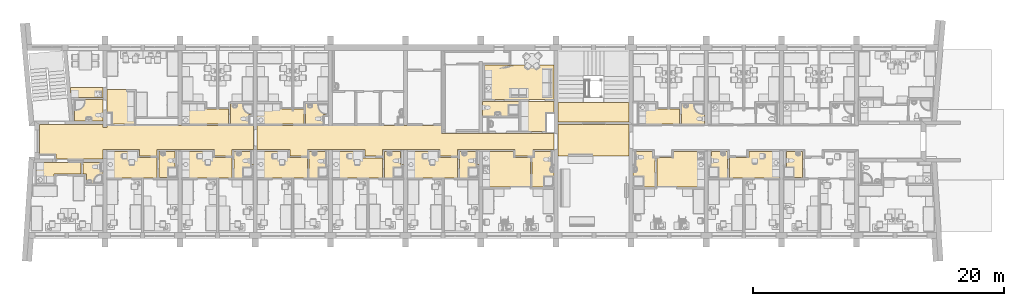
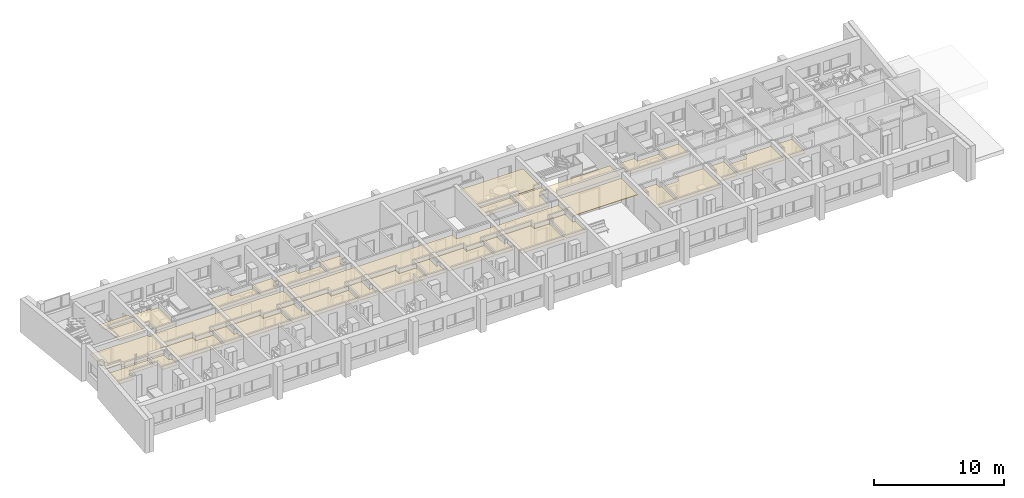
# One storey, part 42 of 172: 35 coverings.
"""IFC2X3 building model written with IfcOpenShell, lengths in millimetres."""

from ifc_helpers import new_model, entity, si_unit, converted_unit, money_unit, direction, frame, origin_with_axes, place, context, subcontext, project, spatial, faceted_brep, material, type_object, element, save


model = new_model("IFC2X3")

# Units and contexts
model_context = context("Model", 3, precision=1e-05, world=origin_with_axes(), true_north=direction((0.0, 1.0)))
body_context = subcontext(model_context, "Body", "Model", "MODEL_VIEW")
ifc_project = project(units=[si_unit("LENGTHUNIT", "METRE", prefix="MILLI"), si_unit("AREAUNIT", "SQUARE_METRE"), si_unit("VOLUMEUNIT", "CUBIC_METRE"), converted_unit("PLANEANGLEUNIT", "DEGREE", entity("IfcPlaneAngleMeasure", 0.0174532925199), si_unit("PLANEANGLEUNIT", "RADIAN"), dimensions=[0, 0, 0, 0, 0, 0, 0]), si_unit("SOLIDANGLEUNIT", "STERADIAN"), money_unit("USD"), converted_unit("TIMEUNIT", "Year", entity("IfcTimeMeasure", 31556926.0), si_unit("TIMEUNIT", "SECOND"), dimensions=[0, 0, 0, 0, 0, 0, 0]), si_unit("MASSUNIT", "GRAM"), si_unit("THERMODYNAMICTEMPERATUREUNIT", "DEGREE_CELSIUS"), si_unit("LUMINOUSINTENSITYUNIT", "LUMEN")], contexts=[model_context])

# Site, building, storey
site_placement = place(None, origin_with_axes())
site = spatial("IfcSite", under=ifc_project, at=site_placement, Name="Site", CompositionType="ELEMENT")
building_placement = place(site_placement, origin_with_axes())
building = spatial("IfcBuilding", under=site, at=building_placement, Name="Building", CompositionType="ELEMENT")
storey_placement = place(building_placement, frame((0.0, 0.0, 3200.0), z_axis=(0.0, 0.0, 1.0), x_axis=(1.0, 0.0, 0.0)))
storey = spatial("IfcBuildingStorey", under=building, at=storey_placement, Name="3KORRUS", CompositionType="ELEMENT", Elevation=3200.0)

# Coverings
ifc_material_1 = material(Name="Alumiiniumprofiil")
covering_type_1 = type_object("IfcCoveringType", Name="Alumiiniumprofiil 50", PredefinedType="NOTDEFINED")
covering_1_placement = place(storey_placement, frame((-2115.29670331, -10987.6041088, 2350.0), z_axis=(0.0, 0.0, 1.0), x_axis=(1.0, 0.0, 0.0)))
element("IfcCovering", 1, at=covering_1_placement, inside=storey, type_object=covering_type_1, material=ifc_material_1, Name="RL2", ObjectType="alumiiniumprofiil", PredefinedType="CEILING", context=body_context, shape_type="Brep", body=[
    faceted_brep([(0.0, 0.0, -50.0), (1825.0, 1.0, -50.0), (1825.0, 1.0, 0.0), (0.0, 0.0, 0.0), (0.0, 1620.226, -50.0), (1831.288, 1619.226, -50.0), (1831.288, 699.226, -50.0), (1831.288, 699.226, 0.0), (1831.288, 1619.226, 0.0), (0.0, 1620.226, 0.0)], [[[0, 1, 2, 3]], [[0, 4, 5, 6, 1]], [[1, 6, 7, 2]], [[3, 2, 7, 8, 9]], [[4, 0, 3, 9]], [[5, 4, 9, 8]], [[6, 5, 8, 7]]]),
])
covering_2_placement = place(storey_placement, frame((7559.89667774, -15289.2398994, 2350.0), z_axis=(0.0, 0.0, 1.0), x_axis=(1.0, 0.0, 0.0)))
element("IfcCovering", 2, at=covering_2_placement, inside=storey, type_object=covering_type_1, material=ifc_material_1, Name="RL2", ObjectType="alumiiniumprofiil", PredefinedType="CEILING", context=body_context, shape_type="Brep", body=[
    faceted_brep([(0.0, 0.0, -50.0), (0.0, 2099.869, -50.0), (0.0, 2099.869, 0.0), (0.0, 0.0, 0.0), (-1550.193, 8.768, -50.0), (-1550.193, 908.768, -50.0), (-1299.905, 908.768, -50.0), (-1299.905, 2099.869, -50.0), (-1299.905, 2099.869, 0.0), (-1299.905, 908.768, 0.0), (-1550.193, 908.768, 0.0), (-1550.193, 8.768, 0.0)], [[[0, 1, 2, 3]], [[0, 4, 5, 6, 7, 1]], [[1, 7, 8, 2]], [[3, 2, 8, 9, 10, 11]], [[4, 0, 3, 11]], [[5, 4, 11, 10]], [[6, 5, 10, 9]], [[7, 6, 9, 8]]]),
])
covering_3_placement = place(storey_placement, frame((-37834.201689, -15289.2398994, 2350.0), z_axis=(0.0, 0.0, 1.0), x_axis=(1.0, 0.0, 0.0)))
element("IfcCovering", 3, at=covering_3_placement, inside=storey, type_object=covering_type_1, material=ifc_material_1, Name="RL2", ObjectType="alumiiniumprofiil", PredefinedType="CEILING", context=body_context, shape_type="Brep", body=[
    faceted_brep([(0.0, 0.0, -50.0), (1543.905, 0.0, -50.0), (1543.905, 0.0, 0.0), (0.0, 0.0, 0.0), (0.0, 2099.869, -50.0), (1295.215, 2099.869, -50.0), (1300.193, 1058.768, -50.0), (1543.905, 1058.768, -50.0), (1543.905, 1058.768, 0.0), (1300.193, 1058.768, 0.0), (1295.215, 2099.869, 0.0), (0.0, 2099.869, 0.0)], [[[0, 1, 2, 3]], [[0, 4, 5, 6, 7, 1]], [[1, 7, 8, 2]], [[3, 2, 8, 9, 10, 11]], [[4, 0, 3, 11]], [[5, 4, 11, 10]], [[6, 5, 10, 9]], [[7, 6, 9, 8]]]),
])
covering_4_placement = place(storey_placement, frame((-48290.2967033, -10739.6041088, 2350.0), z_axis=(0.0, 0.0, 1.0), x_axis=(1.0, 0.0, 0.0)))
element("IfcCovering", 4, at=covering_4_placement, inside=storey, type_object=covering_type_1, material=ifc_material_1, Name="RL2", ObjectType="alumiiniumprofiil", PredefinedType="CEILING", context=body_context, shape_type="Brep", body=[
    faceted_brep([(0.0, 0.0, -50.0), (0.0, 1694.331, -50.0), (0.0, 1694.331, 0.0), (0.0, 0.0, 0.0), (-2288.288, 0.0, -50.0), (-2288.288, 1694.331, -50.0), (-2288.288, 1694.331, 0.0), (-2288.288, 0.0, 0.0)], [[[0, 1, 2, 3]], [[0, 4, 5, 1]], [[1, 5, 6, 2]], [[3, 2, 6, 7]], [[4, 0, 3, 7]], [[5, 4, 7, 6]]]),
])
covering_5_placement = place(storey_placement, frame((-43834.201689, -15289.2398994, 2350.0), z_axis=(0.0, 0.0, 1.0), x_axis=(1.0, 0.0, 0.0)))
element("IfcCovering", 5, at=covering_5_placement, inside=storey, type_object=covering_type_1, material=ifc_material_1, Name="RL2", ObjectType="alumiiniumprofiil", PredefinedType="CEILING", context=body_context, shape_type="Brep", body=[
    faceted_brep([(0.0, 0.0, -50.0), (1543.905, 8.768, -50.0), (1543.905, 8.768, 0.0), (0.0, 0.0, 0.0), (0.0, 2099.869, -50.0), (1295.215, 2099.869, -50.0), (1300.193, 948.488, -50.0), (1300.193, 908.768, -50.0), (1543.905, 908.768, -50.0), (1543.905, 908.768, 0.0), (1300.193, 908.768, 0.0), (1300.193, 948.488, 0.0), (1295.215, 2099.869, 0.0), (0.0, 2099.869, 0.0)], [[[0, 1, 2, 3]], [[0, 4, 5, 6, 7, 8, 1]], [[1, 8, 9, 2]], [[3, 2, 9, 10, 11, 12, 13]], [[4, 0, 3, 13]], [[5, 4, 13, 12]], [[6, 5, 12, 11]], [[7, 6, 11, 10]], [[8, 7, 10, 9]]]),
])
covering_6_placement = place(storey_placement, frame((-31834.201689, -15289.2398994, 2350.0), z_axis=(0.0, 0.0, 1.0), x_axis=(1.0, 0.0, 0.0)))
element("IfcCovering", 6, at=covering_6_placement, inside=storey, type_object=covering_type_1, material=ifc_material_1, Name="RL2", ObjectType="alumiiniumprofiil", PredefinedType="CEILING", context=body_context, shape_type="Brep", body=[
    faceted_brep([(0.0, 0.0, -50.0), (1543.905, 0.0, -50.0), (1543.905, 0.0, 0.0), (0.0, 0.0, 0.0), (0.0, 2105.058, -50.0), (1295.215, 2105.058, -50.0), (1300.935, 908.801, -50.0), (1543.905, 908.768, -50.0), (1543.905, 908.768, 0.0), (1300.935, 908.801, 0.0), (1295.215, 2105.058, 0.0), (0.0, 2105.058, 0.0)], [[[0, 1, 2, 3]], [[0, 4, 5, 6, 7, 1]], [[1, 7, 8, 2]], [[3, 2, 8, 9, 10, 11]], [[4, 0, 3, 11]], [[5, 4, 11, 10]], [[6, 5, 10, 9]], [[7, 6, 9, 8]]]),
])
covering_7_placement = place(storey_placement, frame((-25835.2232029, -15289.2398994, 2350.0), z_axis=(0.0, 0.0, 1.0), x_axis=(1.0, 0.0, 0.0)))
element("IfcCovering", 7, at=covering_7_placement, inside=storey, type_object=covering_type_1, material=ifc_material_1, Name="RL2", ObjectType="alumiiniumprofiil", PredefinedType="CEILING", context=body_context, shape_type="Brep", body=[
    faceted_brep([(0.0, 0.0, -50.0), (1543.905, 0.0, -50.0), (1543.905, 0.0, 0.0), (0.0, 0.0, 0.0), (0.0, 2099.869, -50.0), (1295.215, 2099.869, -50.0), (1300.193, 1058.768, -50.0), (1543.905, 1058.768, -50.0), (1543.905, 1058.768, 0.0), (1300.193, 1058.768, 0.0), (1295.215, 2099.869, 0.0), (0.0, 2099.869, 0.0)], [[[0, 1, 2, 3]], [[0, 4, 5, 6, 7, 1]], [[1, 7, 8, 2]], [[3, 2, 8, 9, 10, 11]], [[4, 0, 3, 11]], [[5, 4, 11, 10]], [[6, 5, 10, 9]], [[7, 6, 9, 8]]]),
])
covering_8_placement = place(storey_placement, frame((-17990.2967033, -10342.2398994, 2350.0), z_axis=(0.0, 0.0, 1.0), x_axis=(1.0, 0.0, 0.0)))
element("IfcCovering", 8, at=covering_8_placement, inside=storey, type_object=covering_type_1, material=ifc_material_1, Name="RL2", ObjectType="alumiiniumprofiil", PredefinedType="CEILING", context=body_context, shape_type="Brep", body=[
    faceted_brep([(0.0, 0.0, -50.0), (2899.854, 0.0, -50.0), (2899.854, 0.0, 0.0), (0.0, 0.0, 0.0), (0.0, 1152.667, -50.0), (2899.854, 1152.667, -50.0), (2899.854, 1152.667, 0.0), (0.0, 1152.667, 0.0)], [[[0, 1, 2, 3]], [[0, 4, 5, 1]], [[1, 5, 6, 2]], [[3, 2, 6, 7]], [[4, 0, 3, 7]], [[5, 4, 7, 6]]]),
])
covering_9_placement = place(storey_placement, frame((-14037.2404586, -13689.321739, 2350.0), z_axis=(0.0, 0.0, 1.0), x_axis=(1.0, 0.0, 0.0)))
element("IfcCovering", 9, at=covering_9_placement, inside=storey, type_object=covering_type_1, material=ifc_material_1, Name="RL2", ObjectType="alumiiniumprofiil", PredefinedType="CEILING", context=body_context, shape_type="Brep", body=[
    faceted_brep([(0.0, 0.0, -50.0), (0.0, -2340.414, -50.0), (0.0, -2340.414, 0.0), (0.0, 0.0, 0.0), (196.75, 0.0, -50.0), (196.75, 500.082, -50.0), (1491.965, 500.082, -50.0), (1496.944, -691.019, -50.0), (1746.944, -691.019, -50.0), (1746.944, -2340.283, -50.0), (1746.944, -2340.283, 0.0), (1746.944, -691.019, 0.0), (1496.944, -691.019, 0.0), (1491.965, 500.082, 0.0), (196.75, 500.082, 0.0), (196.75, 0.0, 0.0)], [[[0, 1, 2, 3]], [[0, 4, 5, 6, 7, 8, 9, 1]], [[1, 9, 10, 2]], [[3, 2, 10, 11, 12, 13, 14, 15]], [[4, 0, 3, 15]], [[5, 4, 15, 14]], [[6, 5, 14, 13]], [[7, 6, 13, 12]], [[8, 7, 12, 11]], [[9, 8, 11, 10]]]),
])
covering_10_placement = place(storey_placement, frame((-19838.0195593, -15289.2398994, 2350.0), z_axis=(0.0, 0.0, 1.0), x_axis=(1.0, 0.0, 0.0)))
element("IfcCovering", 10, at=covering_10_placement, inside=storey, type_object=covering_type_1, material=ifc_material_1, Name="RL2", ObjectType="alumiiniumprofiil", PredefinedType="CEILING", context=body_context, shape_type="Brep", body=[
    faceted_brep([(0.0, 0.0, -50.0), (1547.723, 0.0, -50.0), (1547.723, 0.0, 0.0), (0.0, 0.0, 0.0), (3.818, 2099.875, -50.0), (1299.033, 2099.875, -50.0), (1304.011, 1058.774, -50.0), (1547.723, 1058.774, -50.0), (1547.723, 1058.774, 0.0), (1304.011, 1058.774, 0.0), (1299.033, 2099.875, 0.0), (3.818, 2099.875, 0.0)], [[[0, 1, 2, 3]], [[0, 4, 5, 6, 7, 1]], [[1, 7, 8, 2]], [[3, 2, 8, 9, 10, 11]], [[4, 0, 3, 11]], [[5, 4, 11, 10]], [[6, 5, 10, 9]], [[7, 6, 9, 8]]]),
])
covering_11_placement = place(storey_placement, frame((-4243.35294798, -13686.4524121, 2350.0), z_axis=(0.0, 0.0, 1.0), x_axis=(1.0, 0.0, 0.0)))
element("IfcCovering", 11, at=covering_11_placement, inside=storey, type_object=covering_type_1, material=ifc_material_1, Name="RL2", ObjectType="alumiiniumprofiil", PredefinedType="CEILING", context=body_context, shape_type="Brep", body=[
    faceted_brep([(0.0, 0.0, -50.0), (-196.75, 0.0, -50.0), (-196.75, 0.0, 0.0), (0.0, 0.0, 0.0), (0.0, -2340.283, -50.0), (-1746.944, -2340.283, -50.0), (-1746.944, -624.351, -50.0), (-1496.944, -624.351, -50.0), (-1491.965, 500.082, -50.0), (-196.75, 500.082, -50.0), (-196.75, 500.082, 0.0), (-1491.965, 500.082, 0.0), (-1496.944, -624.351, 0.0), (-1746.944, -624.351, 0.0), (-1746.944, -2340.283, 0.0), (0.0, -2340.283, 0.0)], [[[0, 1, 2, 3]], [[0, 4, 5, 6, 7, 8, 9, 1]], [[1, 9, 10, 2]], [[3, 2, 10, 11, 12, 13, 14, 15]], [[4, 0, 3, 15]], [[5, 4, 15, 14]], [[6, 5, 14, 13]], [[7, 6, 13, 12]], [[8, 7, 12, 11]], [[9, 8, 11, 10]]]),
])
covering_12_placement = place(storey_placement, frame((1553.60828238, -15289.2398994, 2350.0), z_axis=(0.0, 0.0, 1.0), x_axis=(1.0, 0.0, 0.0)))
element("IfcCovering", 12, at=covering_12_placement, inside=storey, type_object=covering_type_1, material=ifc_material_1, Name="RL2", ObjectType="alumiiniumprofiil", PredefinedType="CEILING", context=body_context, shape_type="Brep", body=[
    faceted_brep([(0.0, 0.0, -50.0), (0.0, 2099.869, -50.0), (0.0, 2099.869, 0.0), (0.0, 0.0, 0.0), (-1543.905, 0.0, -50.0), (-1543.905, 908.768, -50.0), (-1300.193, 908.768, -50.0), (-1295.215, 2099.869, -50.0), (-1295.215, 2099.869, 0.0), (-1300.193, 908.768, 0.0), (-1543.905, 908.768, 0.0), (-1543.905, 0.0, 0.0)], [[[0, 1, 2, 3]], [[0, 4, 5, 6, 7, 1]], [[1, 7, 8, 2]], [[3, 2, 8, 9, 10, 11]], [[4, 0, 3, 11]], [[5, 4, 11, 10]], [[6, 5, 10, 9]], [[7, 6, 9, 8]]]),
])
covering_13_placement = place(storey_placement, frame((-32128.1115082, -10978.8579659, 2350.0), z_axis=(0.0, 0.0, 1.0), x_axis=(1.0, 0.0, 0.0)))
element("IfcCovering", 13, at=covering_13_placement, inside=storey, type_object=covering_type_1, material=ifc_material_1, Name="RL2", ObjectType="alumiiniumprofiil", PredefinedType="CEILING", context=body_context, shape_type="Brep", body=[
    faceted_brep([(0.0, 0.0, -50.0), (1387.815, -7.746, -50.0), (1387.815, -7.746, 0.0), (0.0, 0.0, 0.0), (12.815, 1611.479, -50.0), (1831.288, 1611.479, -50.0), (1837.815, 698.754, -50.0), (1387.815, 698.754, -50.0), (1387.815, 698.754, 0.0), (1837.815, 698.754, 0.0), (1831.288, 1611.479, 0.0), (12.815, 1611.479, 0.0)], [[[0, 1, 2, 3]], [[0, 4, 5, 6, 7, 1]], [[1, 7, 8, 2]], [[3, 2, 8, 9, 10, 11]], [[4, 0, 3, 11]], [[5, 4, 11, 10]], [[6, 5, 10, 9]], [[7, 6, 9, 8]]]),
])
covering_14_placement = place(storey_placement, frame((-38121.5850987, -10986.6041088, 2350.0), z_axis=(0.0, 0.0, 1.0), x_axis=(1.0, 0.0, 0.0)))
element("IfcCovering", 14, at=covering_14_placement, inside=storey, type_object=covering_type_1, material=ifc_material_1, Name="RL2", ObjectType="alumiiniumprofiil", PredefinedType="CEILING", context=body_context, shape_type="Brep", body=[
    faceted_brep([(0.0, 0.0, -50.0), (1431.577, 0.0, -50.0), (1431.577, 0.0, 0.0), (0.0, 0.0, 0.0), (0.0, 1619.226, -50.0), (1831.288, 1619.226, -50.0), (1831.288, 699.226, -50.0), (1431.577, 699.226, -50.0), (1431.577, 699.226, 0.0), (1831.288, 699.226, 0.0), (1831.288, 1619.226, 0.0), (0.0, 1619.226, 0.0)], [[[0, 1, 2, 3]], [[0, 4, 5, 6, 7, 1]], [[1, 7, 8, 2]], [[3, 2, 8, 9, 10, 11]], [[4, 0, 3, 11]], [[5, 4, 11, 10]], [[6, 5, 10, 9]], [[7, 6, 9, 8]]]),
])
covering_15_placement = place(storey_placement, frame((-49890.4499069, -14989.5106464, 2350.0), z_axis=(0.0, 0.0, 1.0), x_axis=(1.0, 0.0, 0.0)))
element("IfcCovering", 15, at=covering_15_placement, inside=storey, type_object=covering_type_1, material=ifc_material_1, Name="RL2", ObjectType="alumiiniumprofiil", PredefinedType="CEILING", context=body_context, shape_type="Brep", body=[
    faceted_brep([(0.0, 0.0, -50.0), (266.685, 0.0, -50.0), (266.685, 0.0, 0.0), (0.0, 0.0, 0.0), (0.0, 902.173, -50.0), (1340.153, 902.173, -50.0), (1340.153, 150.484, -50.0), (1600.153, 150.484, -50.0), (1600.153, -749.516, -50.0), (267.984, -749.516, -50.0), (267.984, -749.516, 0.0), (1600.153, -749.516, 0.0), (1600.153, 150.484, 0.0), (1340.153, 150.484, 0.0), (1340.153, 902.173, 0.0), (0.0, 902.173, 0.0)], [[[0, 1, 2, 3]], [[0, 4, 5, 6, 7, 8, 9, 1]], [[1, 9, 10, 2]], [[3, 2, 10, 11, 12, 13, 14, 15]], [[4, 0, 3, 15]], [[5, 4, 15, 14]], [[6, 5, 14, 13]], [[7, 6, 13, 12]], [[8, 7, 12, 11]], [[9, 8, 11, 10]]]),
])
ifc_material_2 = material(Name="UmbKipsplaat")
covering_type_2 = type_object("IfcCoveringType", Name="UmbKipsplaat 50", PredefinedType="NOTDEFINED")
covering_16_placement = place(storey_placement, frame((-35984.008308, -9367.37850445, 2350.0), z_axis=(0.0, 0.0, 1.0), x_axis=(1.0, 0.0, 0.0)))
element("IfcCovering", 16, at=covering_16_placement, inside=storey, type_object=covering_type_2, material=ifc_material_2, Name="RL1", ObjectType="kipsplaat", PredefinedType="CEILING", context=body_context, shape_type="Brep", body=[
    faceted_brep([(0.0, 0.0, -50.0), (0.0, -1619.226, -50.0), (0.0, -1619.226, 0.0), (0.0, 0.0, 0.0), (1818.265, 0.0, -50.0), (1818.265, -448.516, -50.0), (3718.712, -448.516, -50.0), (3718.712, -1619.226, -50.0), (3718.712, -1619.226, 0.0), (3718.712, -448.516, 0.0), (1818.265, -448.516, 0.0), (1818.265, 0.0, 0.0)], [[[0, 1, 2, 3]], [[0, 4, 5, 6, 7, 1]], [[1, 7, 8, 2]], [[3, 2, 8, 9, 10, 11]], [[4, 0, 3, 11]], [[5, 4, 11, 10]], [[6, 5, 10, 9]], [[7, 6, 9, 8]]]),
])
covering_17_placement = place(storey_placement, frame((-5540.30226501, -10986.6041088, 2350.0), z_axis=(0.0, 0.0, 1.0), x_axis=(1.0, 0.0, 0.0)))
element("IfcCovering", 17, at=covering_17_placement, inside=storey, type_object=covering_type_2, material=ifc_material_2, Name="RL1", ObjectType="kipsplaat", PredefinedType="CEILING", context=body_context, shape_type="Brep", body=[
    faceted_brep([(0.0, 0.0, -50.0), (3275.006, -1.0, -50.0), (3275.006, -1.0, 0.0), (0.0, 0.0, 0.0), (0.0, 1619.226, -50.0), (1350.0, 1618.226, -50.0), (1374.559, 1178.71, -50.0), (3275.006, 1178.71, -50.0), (3275.006, 1178.71, 0.0), (1374.559, 1178.71, 0.0), (1350.0, 1618.226, 0.0), (0.0, 1619.226, 0.0)], [[[0, 1, 2, 3]], [[0, 4, 5, 6, 7, 1]], [[1, 7, 8, 2]], [[3, 2, 8, 9, 10, 11]], [[4, 0, 3, 11]], [[5, 4, 11, 10]], [[6, 5, 10, 9]], [[7, 6, 9, 8]]]),
])
covering_18_placement = place(storey_placement, frame((-33533.8623886, -13189.2398719, 2350.0), z_axis=(0.0, 0.0, 1.0), x_axis=(1.0, 0.0, 0.0)))
element("IfcCovering", 18, at=covering_18_placement, inside=storey, type_object=covering_type_2, material=ifc_material_2, Name="RL1", ObjectType="kipsplaat", PredefinedType="CEILING", context=body_context, shape_type="Brep", body=[
    faceted_brep([(0.0, 0.0, -50.0), (-2450.146, -0.131, -50.0), (-2450.146, -0.131, 0.0), (0.0, 0.0, 0.0), (0.0, -500.213, -50.0), (1549.661, -500.213, -50.0), (1549.661, -2100.0, -50.0), (-2450.146, -2100.0, -50.0), (-2450.146, -2100.0, 0.0), (1549.661, -2100.0, 0.0), (1549.661, -500.213, 0.0), (0.0, -500.213, 0.0)], [[[0, 1, 2, 3]], [[0, 4, 5, 6, 7, 1]], [[1, 7, 8, 2]], [[3, 2, 8, 9, 10, 11]], [[4, 0, 3, 11]], [[5, 4, 11, 10]], [[6, 5, 10, 9]], [[7, 6, 9, 8]]]),
])
covering_19_placement = place(storey_placement, frame((-11990.2967033, -11039.6041088, 2250.0), z_axis=(0.0, 0.0, 1.0), x_axis=(1.0, 0.0, 0.0)))
element("IfcCovering", 19, at=covering_19_placement, inside=storey, type_object=covering_type_2, material=ifc_material_2, Name="RL1", ObjectType="kipsplaat", PredefinedType="CEILING", context=body_context, shape_type="Brep", body=[
    faceted_brep([(0.0, 0.0, -50.0), (0.0, -2516.722, -50.0), (0.0, -2516.722, 0.0), (0.0, 0.0, 0.0), (5700.0, -4.537, -50.0), (5700.0, -2516.722, -50.0), (5700.0, -2516.722, 0.0), (5700.0, -4.537, 0.0)], [[[0, 1, 2, 3]], [[0, 4, 5, 1]], [[1, 5, 6, 2]], [[3, 2, 6, 7]], [[4, 0, 3, 7]], [[5, 4, 7, 6]]]),
])
covering_20_placement = place(storey_placement, frame((-45533.8623886, -13189.2398697, 2350.0), z_axis=(0.0, 0.0, 1.0), x_axis=(1.0, 0.0, 0.0)))
element("IfcCovering", 20, at=covering_20_placement, inside=storey, type_object=covering_type_2, material=ifc_material_2, Name="RL1", ObjectType="kipsplaat", PredefinedType="CEILING", context=body_context, shape_type="Brep", body=[
    faceted_brep([(0.0, 0.0, -50.0), (-2450.146, -0.131, -50.0), (-2450.146, -0.131, 0.0), (0.0, 0.0, 0.0), (0.0, -500.213, -50.0), (1549.661, -500.213, -50.0), (1549.661, -2100.0, -50.0), (-2450.146, -2100.0, -50.0), (-2450.146, -2100.0, 0.0), (1549.661, -2100.0, 0.0), (1549.661, -500.213, 0.0), (0.0, -500.213, 0.0)], [[[0, 1, 2, 3]], [[0, 4, 5, 6, 7, 1]], [[1, 7, 8, 2]], [[3, 2, 8, 9, 10, 11]], [[4, 0, 3, 11]], [[5, 4, 11, 10]], [[6, 5, 10, 9]], [[7, 6, 9, 8]]]),
])
covering_21_placement = place(storey_placement, frame((-45784.1327748, -10986.6041088, 2350.0), z_axis=(0.0, 0.0, 1.0), x_axis=(1.0, 0.0, 0.0)))
element("IfcCovering", 21, at=covering_21_placement, inside=storey, type_object=covering_type_2, material=ifc_material_2, Name="RL1", ObjectType="kipsplaat", PredefinedType="CEILING", context=body_context, shape_type="Brep", body=[
    faceted_brep([(0.0, 0.0, -50.0), (0.0, 2576.733, -50.0), (0.0, 2576.733, 0.0), (0.0, 0.0, 0.0), (-1743.72, 0.0, -50.0), (-1747.444, 957.307, -50.0), (-2206.164, 957.307, -50.0), (-2206.164, 2726.733, -50.0), (-649.85, 2726.733, -50.0), (-649.85, 2576.733, -50.0), (-649.85, 2576.733, 0.0), (-649.85, 2726.733, 0.0), (-2206.164, 2726.733, 0.0), (-2206.164, 957.307, 0.0), (-1747.444, 957.307, 0.0), (-1743.72, 0.0, 0.0)], [[[0, 1, 2, 3]], [[0, 4, 5, 6, 7, 8, 9, 1]], [[1, 9, 10, 2]], [[3, 2, 10, 11, 12, 13, 14, 15]], [[4, 0, 3, 15]], [[5, 4, 15, 14]], [[6, 5, 14, 13]], [[7, 6, 13, 12]], [[8, 7, 12, 11]], [[9, 8, 11, 10]]]),
])
covering_22_placement = place(storey_placement, frame((-39533.8623886, -13189.2398719, 2350.0), z_axis=(0.0, 0.0, 1.0), x_axis=(1.0, 0.0, 0.0)))
element("IfcCovering", 22, at=covering_22_placement, inside=storey, type_object=covering_type_2, material=ifc_material_2, Name="RL1", ObjectType="kipsplaat", PredefinedType="CEILING", context=body_context, shape_type="Brep", body=[
    faceted_brep([(0.0, 0.0, -50.0), (-2450.146, -0.131, -50.0), (-2450.146, -0.131, 0.0), (0.0, 0.0, 0.0), (0.0, -500.213, -50.0), (1549.661, -500.213, -50.0), (1549.661, -2100.0, -50.0), (-2450.146, -2100.0, -50.0), (-2450.146, -2100.0, 0.0), (1549.661, -2100.0, 0.0), (1549.661, -500.213, 0.0), (0.0, -500.213, 0.0)], [[[0, 1, 2, 3]], [[0, 4, 5, 6, 7, 1]], [[1, 7, 8, 2]], [[3, 2, 8, 9, 10, 11]], [[4, 0, 3, 11]], [[5, 4, 11, 10]], [[6, 5, 10, 9]], [[7, 6, 9, 8]]]),
])
covering_23_placement = place(storey_placement, frame((-290.296703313, -16029.7357921, 2350.0), z_axis=(0.0, 0.0, 1.0), x_axis=(1.0, 0.0, 0.0)))
element("IfcCovering", 23, at=covering_23_placement, inside=storey, type_object=covering_type_2, material=ifc_material_2, Name="RL1", ObjectType="kipsplaat", PredefinedType="CEILING", context=body_context, shape_type="Brep", body=[
    faceted_brep([(0.0, 0.0, -50.0), (0.0, 2840.496, -50.0), (0.0, 2840.496, 0.0), (0.0, 0.0, 0.0), (-3803.056, 0.0, -50.0), (-3803.056, 2340.283, -50.0), (-2450.146, 2340.283, -50.0), (-2450.146, 2840.496, -50.0), (-2450.146, 2840.496, 0.0), (-2450.146, 2340.283, 0.0), (-3803.056, 2340.283, 0.0), (-3803.056, 0.0, 0.0)], [[[0, 1, 2, 3]], [[0, 4, 5, 6, 7, 1]], [[1, 7, 8, 2]], [[3, 2, 8, 9, 10, 11]], [[4, 0, 3, 11]], [[5, 4, 11, 10]], [[6, 5, 10, 9]], [[7, 6, 9, 8]]]),
])
covering_24_placement = place(storey_placement, frame((-40172.0319423, -9366.37847881, 2350.0), z_axis=(0.0, 0.0, 1.0), x_axis=(1.0, 0.0, 0.0)))
element("IfcCovering", 24, at=covering_24_placement, inside=storey, type_object=covering_type_2, material=ifc_material_2, Name="RL1", ObjectType="kipsplaat", PredefinedType="CEILING", context=body_context, shape_type="Brep", body=[
    faceted_brep([(0.0, 0.0, -50.0), (-1818.265, 0.0, -50.0), (-1818.265, 0.0, 0.0), (0.0, 0.0, 0.0), (9.057, -440.329, -50.0), (1912.779, -440.516, -50.0), (1912.779, -1620.775, -50.0), (-1805.933, -1620.226, -50.0), (-1805.933, -1620.226, 0.0), (1912.779, -1620.775, 0.0), (1912.779, -440.516, 0.0), (9.057, -440.329, 0.0)], [[[0, 1, 2, 3]], [[0, 4, 5, 6, 7, 1]], [[1, 7, 8, 2]], [[3, 2, 8, 9, 10, 11]], [[4, 0, 3, 11]], [[5, 4, 11, 10]], [[6, 5, 10, 9]], [[7, 6, 9, 8]]]),
])
covering_25_placement = place(storey_placement, frame((-53608.4921105, -14087.3375681, 2350.0), z_axis=(0.0, 0.0, 1.0), x_axis=(1.0, 0.0, 0.0)))
element("IfcCovering", 25, at=covering_25_placement, inside=storey, type_object=covering_type_2, material=ifc_material_2, Name="RL1", ObjectType="kipsplaat", PredefinedType="CEILING", context=body_context, shape_type="Brep", body=[
    faceted_brep([(0.0, 0.0, -50.0), (0.0, -1650.689, -50.0), (0.0, -1650.689, 0.0), (0.0, 0.0, 0.0), (3568.042, 0.0, -50.0), (3560.094, -902.173, -50.0), (1405.086, -902.173, -50.0), (1405.086, -1650.689, -50.0), (1405.086, -1650.689, 0.0), (1405.086, -902.173, 0.0), (3560.094, -902.173, 0.0), (3568.042, 0.0, 0.0)], [[[0, 1, 2, 3]], [[0, 4, 5, 6, 7, 1]], [[1, 7, 8, 2]], [[3, 2, 8, 9, 10, 11]], [[4, 0, 3, 11]], [[5, 4, 11, 10]], [[6, 5, 10, 9]], [[7, 6, 9, 8]]]),
])
covering_26_placement = place(storey_placement, frame((-17840.2967033, -9039.57320461, 2350.0), z_axis=(0.0, 0.0, 1.0), x_axis=(1.0, 0.0, 0.0)))
element("IfcCovering", 26, at=covering_26_placement, inside=storey, type_object=covering_type_2, material=ifc_material_2, Name="RL1", ObjectType="kipsplaat", PredefinedType="CEILING", context=body_context, shape_type="Brep", body=[
    faceted_brep([(0.0, 0.0, -50.0), (5550.0, 0.0, -50.0), (5550.0, 0.0, 0.0), (0.0, 0.0, 0.0), (0.0, 2752.396, -50.0), (5550.0, 2752.396, -50.0), (5550.0, 2752.396, 0.0), (0.0, 2752.396, 0.0)], [[[0, 1, 2, 3]], [[0, 4, 5, 1]], [[1, 5, 6, 2]], [[3, 2, 6, 7]], [[4, 0, 3, 7]], [[5, 4, 7, 6]]]),
])
covering_27_placement = place(storey_placement, frame((-11990.2967033, -10839.6041088, 2350.0), z_axis=(0.0, 0.0, 1.0), x_axis=(1.0, 0.0, 0.0)))
element("IfcCovering", 27, at=covering_27_placement, inside=storey, type_object=covering_type_2, material=ifc_material_2, Name="RL1", ObjectType="kipsplaat", PredefinedType="CEILING", context=body_context, shape_type="Brep", body=[
    faceted_brep([(0.0, 0.0, -50.0), (5700.0, 0.0, -50.0), (5700.0, 0.0, 0.0), (0.0, 0.0, 0.0), (0.0, 1558.961, -50.0), (5700.0, 1558.961, -50.0), (5700.0, 1558.961, 0.0), (0.0, 1558.961, 0.0)], [[[0, 1, 2, 3]], [[0, 4, 5, 1]], [[1, 5, 6, 2]], [[3, 2, 6, 7]], [[4, 0, 3, 7]], [[5, 4, 7, 6]]]),
])
covering_28_placement = place(storey_placement, frame((-14940.4426429, -11589.2398994, 2350.0), z_axis=(0.0, 0.0, 1.0), x_axis=(1.0, 0.0, 0.0)))
element("IfcCovering", 28, at=covering_28_placement, inside=storey, type_object=covering_type_2, material=ifc_material_2, Name="RL1", ObjectType="kipsplaat", PredefinedType="CEILING", context=body_context, shape_type="Brep", body=[
    faceted_brep([(0.0, 0.0, -50.0), (1950.146, 0.0, -50.0), (1950.146, 0.0, 0.0), (0.0, 0.0, 0.0), (0.0, 2399.667, -50.0), (2650.146, 2399.667, -50.0), (2650.146, 1527.0, -50.0), (1950.146, 1527.0, -50.0), (1950.146, 1527.0, 0.0), (2650.146, 1527.0, 0.0), (2650.146, 2399.667, 0.0), (0.0, 2399.667, 0.0)], [[[0, 1, 2, 3]], [[0, 4, 5, 6, 7, 1]], [[1, 7, 8, 2]], [[3, 2, 8, 9, 10, 11]], [[4, 0, 3, 11]], [[5, 4, 11, 10]], [[6, 5, 10, 9]], [[7, 6, 9, 8]]]),
])
covering_29_placement = place(storey_placement, frame((-48290.2967033, -8889.27319796, 2350.0), z_axis=(0.0, 0.0, 1.0), x_axis=(1.0, 0.0, 0.0)))
element("IfcCovering", 29, at=covering_29_placement, inside=storey, type_object=covering_type_2, material=ifc_material_2, Name="RL1", ObjectType="kipsplaat", PredefinedType="CEILING", context=body_context, shape_type="Brep", body=[
    faceted_brep([(0.0, 0.0, -50.0), (0.0, 799.402, -50.0), (0.0, 799.402, 0.0), (0.0, 0.0, 0.0), (-2546.245, 0.0, -50.0), (-2618.875, 794.405, -50.0), (-2618.875, 794.405, 0.0), (-2546.245, 0.0, 0.0)], [[[0, 1, 2, 3]], [[0, 4, 5, 1]], [[1, 5, 6, 2]], [[3, 2, 6, 7]], [[4, 0, 3, 7]], [[5, 4, 7, 6]]]),
])
covering_30_placement = place(storey_placement, frame((-17990.2967033, -16026.6051189, 2350.0), z_axis=(0.0, 0.0, 1.0), x_axis=(1.0, 0.0, 0.0)))
element("IfcCovering", 30, at=covering_30_placement, inside=storey, type_object=covering_type_2, material=ifc_material_2, Name="RL1", ObjectType="kipsplaat", PredefinedType="CEILING", context=body_context, shape_type="Brep", body=[
    faceted_brep([(0.0, 0.0, -50.0), (3803.056, -3.134, -50.0), (3803.056, -3.134, 0.0), (0.0, 0.0, 0.0), (0.0, 2837.365, -50.0), (2450.146, 2837.496, -50.0), (2450.146, 2337.283, -50.0), (3803.056, 2337.283, -50.0), (3803.056, 2337.283, 0.0), (2450.146, 2337.283, 0.0), (2450.146, 2837.496, 0.0), (0.0, 2837.365, 0.0)], [[[0, 1, 2, 3]], [[0, 4, 5, 6, 7, 1]], [[1, 7, 8, 2]], [[3, 2, 8, 9, 10, 11]], [[4, 0, 3, 11]], [[5, 4, 11, 10]], [[6, 5, 10, 9]], [[7, 6, 9, 8]]]),
])
covering_31_placement = place(storey_placement, frame((-21533.8623886, -13189.2398994, 2350.0), z_axis=(0.0, 0.0, 1.0), x_axis=(1.0, 0.0, 0.0)))
element("IfcCovering", 31, at=covering_31_placement, inside=storey, type_object=covering_type_2, material=ifc_material_2, Name="RL1", ObjectType="kipsplaat", PredefinedType="CEILING", context=body_context, shape_type="Brep", body=[
    faceted_brep([(0.0, 0.0, -50.0), (-2450.146, 0.0, -50.0), (-2450.146, 0.0, 0.0), (0.0, 0.0, 0.0), (0.0, -500.213, -50.0), (1549.661, -500.213, -50.0), (1549.661, -2100.0, -50.0), (-2450.146, -2100.0, -50.0), (-2450.146, -2100.0, 0.0), (1549.661, -2100.0, 0.0), (1549.661, -500.213, 0.0), (0.0, -500.213, 0.0)], [[[0, 1, 2, 3]], [[0, 4, 5, 6, 7, 1]], [[1, 7, 8, 2]], [[3, 2, 8, 9, 10, 11]], [[4, 0, 3, 11]], [[5, 4, 11, 10]], [[6, 5, 10, 9]], [[7, 6, 9, 8]]]),
])
covering_32_placement = place(storey_placement, frame((3253.26896176, -13189.2398994, 2350.0), z_axis=(0.0, 0.0, 1.0), x_axis=(1.0, 0.0, 0.0)))
element("IfcCovering", 32, at=covering_32_placement, inside=storey, type_object=covering_type_2, material=ifc_material_2, Name="RL1", ObjectType="kipsplaat", PredefinedType="CEILING", context=body_context, shape_type="Brep", body=[
    faceted_brep([(0.0, 0.0, -50.0), (0.0, -500.213, -50.0), (0.0, -500.213, 0.0), (0.0, 0.0, 0.0), (2453.964, 0.0, -50.0), (2453.964, -2100.0, -50.0), (-1545.843, -2100.0, -50.0), (-1545.843, -500.213, -50.0), (-1545.843, -500.213, 0.0), (-1545.843, -2100.0, 0.0), (2453.964, -2100.0, 0.0), (2453.964, 0.0, 0.0)], [[[0, 1, 2, 3]], [[0, 4, 5, 6, 7, 1]], [[1, 7, 8, 2]], [[3, 2, 8, 9, 10, 11]], [[4, 0, 3, 11]], [[5, 4, 11, 10]], [[6, 5, 10, 9]], [[7, 6, 9, 8]]]),
])
covering_33_placement = place(storey_placement, frame((-27534.8839025, -13194.4288088, 2350.0), z_axis=(0.0, 0.0, 1.0), x_axis=(1.0, 0.0, 0.0)))
element("IfcCovering", 33, at=covering_33_placement, inside=storey, type_object=covering_type_2, material=ifc_material_2, Name="RL1", ObjectType="kipsplaat", PredefinedType="CEILING", context=body_context, shape_type="Brep", body=[
    faceted_brep([(0.0, 0.0, -50.0), (-2450.146, -0.131, -50.0), (-2450.146, -0.131, 0.0), (0.0, 0.0, 0.0), (0.0, -500.213, -50.0), (1549.661, -500.213, -50.0), (1549.661, -2094.811, -50.0), (-2450.146, -2094.811, -50.0), (-2450.146, -2094.811, 0.0), (1549.661, -2094.811, 0.0), (1549.661, -500.213, 0.0), (0.0, -500.213, 0.0)], [[[0, 1, 2, 3]], [[0, 4, 5, 6, 7, 1]], [[1, 7, 8, 2]], [[3, 2, 8, 9, 10, 11]], [[4, 0, 3, 11]], [[5, 4, 11, 10]], [[6, 5, 10, 9]], [[7, 6, 9, 8]]]),
])
ifc_material_3 = material(Name="Terasvõrk")
covering_type_3 = type_object("IfcCoveringType", Name="Terasvõrk 50", PredefinedType="NOTDEFINED")
covering_34_placement = place(storey_placement, frame((-53377.938157, -13387.3375262, 2250.0), z_axis=(0.0, 0.0, 1.0), x_axis=(1.0, 0.0, 0.0)))
element("IfcCovering", 34, at=covering_34_placement, inside=storey, type_object=covering_type_3, material=ifc_material_3, Name="RL1", ObjectType="Terasvõrk", PredefinedType="CEILING", context=body_context, shape_type="Brep", body=[
    faceted_brep([(0.0, 0.0, -50.0), (1324.532, 0.0, -50.0), (1324.532, 0.0, 0.0), (0.0, 0.0, 0.0), (0.0, 2347.733, -50.0), (5087.641, 2347.733, -50.0), (5087.641, 2100.891, -50.0), (5387.642, 2100.891, -50.0), (5387.642, 2250.891, -50.0), (17087.641, 2250.733, -50.0), (17087.641, 348.024, -50.0), (15393.737, 347.967, -50.0), (15393.737, -152.115, -50.0), (13994.076, -152.115, -50.0), (13994.076, 348.098, -50.0), (9393.736, 347.967, -50.0), (9393.736, -152.115, -50.0), (7994.076, -152.115, -50.0), (7994.076, 348.098, -50.0), (5087.641, 348.098, -50.0), (5087.641, -400.0, -50.0), (1324.532, -393.503, -50.0), (1324.532, -393.503, 0.0), (5087.641, -400.0, 0.0), (5087.641, 348.098, 0.0), (7994.076, 348.098, 0.0), (7994.076, -152.115, 0.0), (9393.736, -152.115, 0.0), (9393.736, 347.967, 0.0), (13994.076, 348.098, 0.0), (13994.076, -152.115, 0.0), (15393.737, -152.115, 0.0), (15393.737, 347.967, 0.0), (17087.641, 348.024, 0.0), (17087.641, 2250.733, 0.0), (5387.642, 2250.891, 0.0), (5387.642, 2100.891, 0.0), (5087.641, 2100.891, 0.0), (5087.641, 2347.733, 0.0), (0.0, 2347.733, 0.0)], [[[0, 1, 2, 3]], [[0, 4, 5, 6, 7, 8, 9, 10, 11, 12, 13, 14, 15, 16, 17, 18, 19, 20, 21, 1]], [[1, 21, 22, 2]], [[3, 2, 22, 23, 24, 25, 26, 27, 28, 29, 30, 31, 32, 33, 34, 35, 36, 37, 38, 39]], [[4, 0, 3, 39]], [[5, 4, 39, 38]], [[6, 5, 38, 37]], [[7, 6, 37, 36]], [[8, 7, 36, 35]], [[9, 8, 35, 34]], [[10, 9, 34, 33]], [[11, 10, 33, 32]], [[12, 11, 32, 31]], [[13, 12, 31, 30]], [[14, 13, 30, 29]], [[15, 14, 29, 28]], [[16, 15, 28, 27]], [[17, 16, 27, 26]], [[18, 17, 26, 25]], [[19, 18, 25, 24]], [[20, 19, 24, 23]], [[21, 20, 23, 22]]]),
])
covering_35_placement = place(storey_placement, frame((-35990.2967033, -13039.3139355, 2250.0), z_axis=(0.0, 0.0, 1.0), x_axis=(1.0, 0.0, 0.0)))
element("IfcCovering", 35, at=covering_35_placement, inside=storey, type_object=covering_type_3, material=ifc_material_3, Name="RL3", ObjectType="Terasvõrk", PredefinedType="CEILING", context=body_context, shape_type="Brep", body=[
    faceted_brep([(0.0, 0.0, -50.0), (2606.434, 0.074, -50.0), (2606.434, 0.074, 0.0), (0.0, 0.0, 0.0), (0.0, 1902.71, -50.0), (14696.497, 1902.71, -50.0), (14696.497, 1296.337, -50.0), (23700.0, 1297.205, -50.0), (23700.0, 2.943, -50.0), (21999.807, 2.943, -50.0), (21999.807, -500.138, -50.0), (20600.146, -500.138, -50.0), (20600.146, 0.074, -50.0), (16006.095, -0.057, -50.0), (16006.095, -500.138, -50.0), (14606.434, -500.138, -50.0), (14606.434, 0.074, -50.0), (10006.095, -0.057, -50.0), (10006.095, -500.138, -50.0), (8606.434, -500.138, -50.0), (8606.434, 0.074, -50.0), (4006.095, -0.057, -50.0), (4006.095, -500.138, -50.0), (2606.434, -500.138, -50.0), (2606.434, -500.138, 0.0), (4006.095, -500.138, 0.0), (4006.095, -0.057, 0.0), (8606.434, 0.074, 0.0), (8606.434, -500.138, 0.0), (10006.095, -500.138, 0.0), (10006.095, -0.057, 0.0), (14606.434, 0.074, 0.0), (14606.434, -500.138, 0.0), (16006.095, -500.138, 0.0), (16006.095, -0.057, 0.0), (20600.146, 0.074, 0.0), (20600.146, -500.138, 0.0), (21999.807, -500.138, 0.0), (21999.807, 2.943, 0.0), (23700.0, 2.943, 0.0), (23700.0, 1297.205, 0.0), (14696.497, 1296.337, 0.0), (14696.497, 1902.71, 0.0), (0.0, 1902.71, 0.0)], [[[0, 1, 2, 3]], [[0, 4, 5, 6, 7, 8, 9, 10, 11, 12, 13, 14, 15, 16, 17, 18, 19, 20, 21, 22, 23, 1]], [[1, 23, 24, 2]], [[3, 2, 24, 25, 26, 27, 28, 29, 30, 31, 32, 33, 34, 35, 36, 37, 38, 39, 40, 41, 42, 43]], [[4, 0, 3, 43]], [[5, 4, 43, 42]], [[6, 5, 42, 41]], [[7, 6, 41, 40]], [[8, 7, 40, 39]], [[9, 8, 39, 38]], [[10, 9, 38, 37]], [[11, 10, 37, 36]], [[12, 11, 36, 35]], [[13, 12, 35, 34]], [[14, 13, 34, 33]], [[15, 14, 33, 32]], [[16, 15, 32, 31]], [[17, 16, 31, 30]], [[18, 17, 30, 29]], [[19, 18, 29, 28]], [[20, 19, 28, 27]], [[21, 20, 27, 26]], [[22, 21, 26, 25]], [[23, 22, 25, 24]]]),
])

save(model, "model.ifc")
